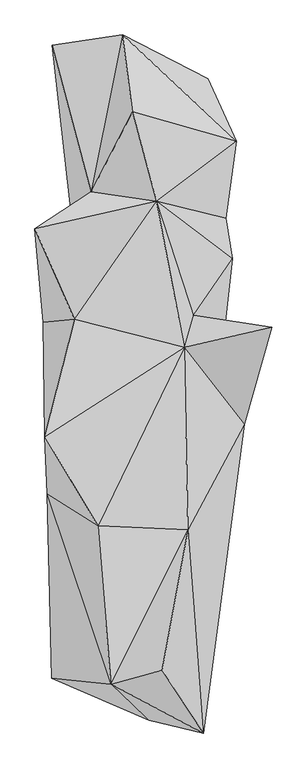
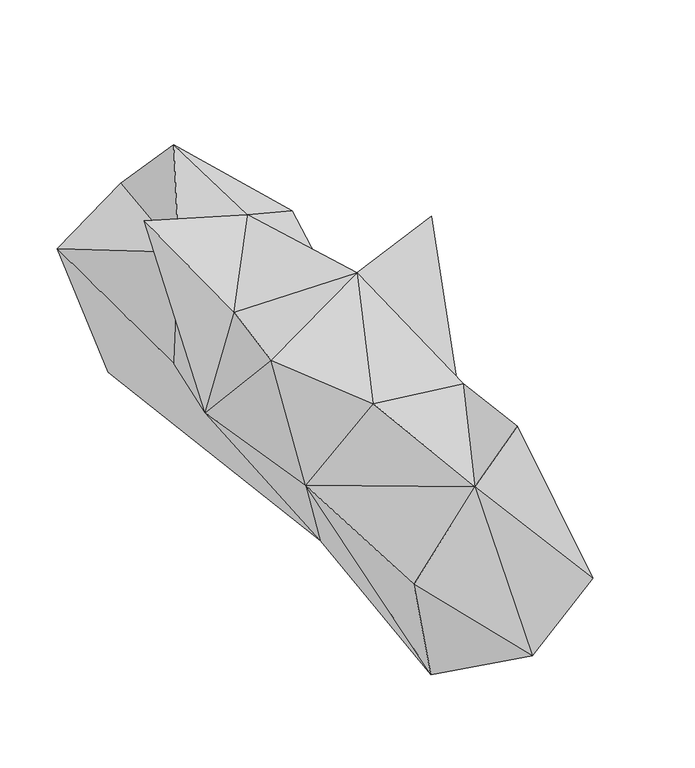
"""IFC4 building model written with IfcOpenShell, lengths in millimetres: geographic element geometry, Enscape AssetDefinition - Potted Plant 250 Snake Plant : Enscape AssetDefinition - Potted Plant 250 Snake Plant."""

from ifc_helpers import new_model, si_unit, origin, place, context, project, spatial, triangles, source, transform, mapped, element, save


def geographic_element_9e3005e0(model_context):
    return source(origin(), model_context, "Body", "Tessellation", [
        triangles([(-16.1222377, 583.4969785, 471.625573), (-36.6331587, 744.2074087, 294.6010041), (141.5201863, 652.375514, 60.6767015), (29.5971555, 571.5319748, 0.0), (-102.3412278, 416.6186108, 360.4080156), (179.2279228, 361.3372104, 247.6005481), (201.2754506, 522.6464776, 283.276986), (147.4850475, 387.640038, 86.5416289), (76.721507, -74.8751853, 0.0), (34.4452699, 396.7236769, 409.2591036), (111.4489749, 159.8088138, 299.3329645), (192.7415601, 276.8896578, 244.9497833), (159.3691604, -23.8972854, 153.1616904), (275.1216698, 134.339638, 480.918247), (217.6308476, -67.7109878, 221.302008), (100.1972271, -288.0347624, 418.9846001), (131.8394454, -712.19788, 225.9866239), (146.5773721, -531.7447595, 0.0), (18.1724679, -685.6790771, 75.0266069), (46.0764435, -581.2557635, 520.0000185), (-88.1298496, -279.9284985, 435.6368176), (-184.7471353, -597.8158719, 254.4111425), (-60.7954352, -610.0079693, 439.1126956), (-83.0348117, -75.8577108, 0.0), (-3.5162808, -519.449398, 0.0), (-141.1829249, -585.961908, 27.7895442), (-193.7378656, -213.1750694, 248.0203807), (92.1890131, 92.7181415, 441.8993714), (-198.8716184, -94.3106587, 460.2387317), (-137.0592485, 150.6021265, 398.5511089), (-202.384449, 145.2799586, 197.7058102), (-142.9733407, 363.57243, 155.8941908), (-219.8987506, 339.677704, 518.8023808), (-151.0744632, 592.0007472, 0.0), (-183.9289258, 723.0538307, 211.0465293)], [[4, 9, 24], [34, 4, 24], [4, 34, 35], [35, 34, 32], [24, 32, 34], [5, 35, 32], [5, 33, 10], [28, 10, 30], [33, 30, 10], [31, 33, 5], [24, 31, 32], [31, 5, 32], [30, 33, 31], [29, 30, 31], [28, 30, 29], [28, 29, 21], [27, 21, 29], [27, 29, 31], [27, 31, 24], [27, 26, 22], [27, 24, 26], [24, 25, 26], [24, 9, 25], [22, 26, 19], [26, 25, 19], [21, 27, 23], [22, 19, 23], [27, 22, 23], [16, 23, 20], [28, 21, 16], [16, 21, 23], [17, 16, 20], [17, 23, 19], [20, 23, 17], [18, 25, 9], [19, 25, 18], [17, 19, 18], [18, 15, 17], [15, 28, 16], [15, 16, 17], [28, 15, 14], [9, 15, 18], [15, 9, 13], [15, 13, 11], [14, 15, 11], [10, 28, 11], [11, 28, 14], [12, 11, 13], [12, 13, 9], [12, 10, 11], [6, 10, 12], [4, 8, 9], [6, 12, 8], [8, 12, 9], [8, 4, 3], [7, 10, 6], [7, 6, 8], [8, 3, 7], [1, 10, 7], [5, 10, 1], [2, 7, 3], [4, 35, 2], [5, 2, 35], [5, 1, 2], [2, 3, 4], [2, 1, 7]]),
    ])


if __name__ == "__main__":
    model = new_model("IFC4")
    model_context = context("Model", 3, world=origin())
    ifc_project = project(units=[si_unit("LENGTHUNIT", "METRE", prefix="MILLI")], contexts=[model_context])
    site = spatial("IfcSite", under=ifc_project)
    building = spatial("IfcBuilding", under=site)
    placement = place(None, origin())
    geographic_element_shape = geographic_element_9e3005e0(model_context)
    element("IfcGeographicElement", 1, ObjectType="Enscape AssetDefinition - Potted Plant 250 Snake Plant : Enscape AssetDefinition - Potted Plant 250 Snake Plant", at=placement, inside=building, context=model_context, shape_type="MappedRepresentation", body=[
        mapped(geographic_element_shape, transform((0.0, 0.0, 0.0), x_axis=(1.0, 0.0, 0.0), y_axis=(0.0, 1.0, 0.0), z_axis=(0.0, 0.0, 1.0))),
    ])
    save(model, "model.ifc")
